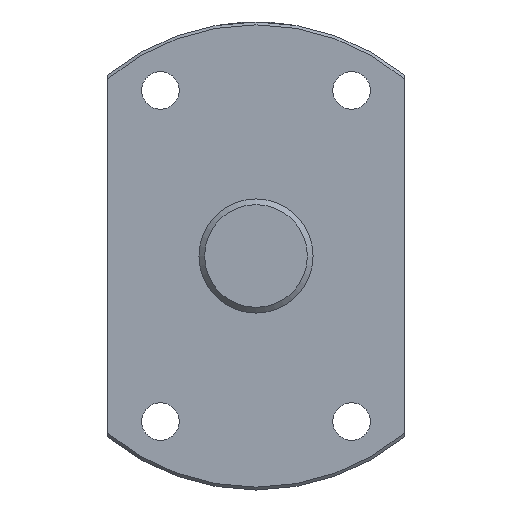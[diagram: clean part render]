
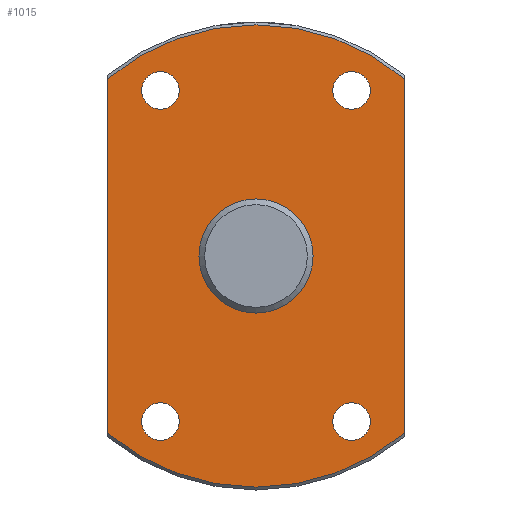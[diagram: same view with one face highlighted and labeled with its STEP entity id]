
A CAD part, left-side view. The second image highlights one B-rep face of the part: STEP entity #1015.
In plain terms, the highlighted planar face has unit normal (-1, 0, 0).
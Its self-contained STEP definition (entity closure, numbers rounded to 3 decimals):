
#315=CARTESIAN_POINT('',(274.556,-26.,31.052));
#316=VERTEX_POINT('',#315);
#341=CARTESIAN_POINT('',(274.556,26.,31.052));
#342=VERTEX_POINT('',#341);
#356=CARTESIAN_POINT('',(274.556,0.0,0.0));
#357=DIRECTION('',(1.0,0.0,0.0));
#358=DIRECTION('',(0.0,1.0,0.0));
#359=AXIS2_PLACEMENT_3D('',#356,#357,#358);
#360=CIRCLE('',#359,40.5);
#361=EDGE_CURVE('',#342,#316,#360,.T.);
#478=CARTESIAN_POINT('',(274.556,-26.,-31.052));
#479=VERTEX_POINT('',#478);
#480=CARTESIAN_POINT('',(274.556,-26.,31.052));
#481=DIRECTION('',(0.0,0.0,-1.0));
#482=VECTOR('',#481,62.105);
#483=LINE('',#480,#482);
#484=EDGE_CURVE('',#316,#479,#483,.T.);
#560=CARTESIAN_POINT('',(274.556,26.,-31.052));
#561=VERTEX_POINT('',#560);
#585=CARTESIAN_POINT('',(274.556,0.0,0.0));
#586=DIRECTION('',(1.0,0.0,0.0));
#587=DIRECTION('',(0.0,1.0,0.0));
#588=AXIS2_PLACEMENT_3D('',#585,#586,#587);
#589=CIRCLE('',#588,40.5);
#590=EDGE_CURVE('',#479,#561,#589,.T.);
#671=CARTESIAN_POINT('',(274.556,26.,-31.052));
#672=DIRECTION('',(0.0,0.0,1.0));
#673=VECTOR('',#672,62.105);
#674=LINE('',#671,#673);
#675=EDGE_CURVE('',#561,#342,#674,.T.);
#897=CARTESIAN_POINT('',(274.556,10.0,0.));
#898=VERTEX_POINT('',#897);
#899=CARTESIAN_POINT('',(274.556,0.0,0.0));
#900=DIRECTION('',(1.0,0.0,0.0));
#901=DIRECTION('',(0.0,-1.0,0.0));
#902=AXIS2_PLACEMENT_3D('',#899,#900,#901);
#903=CIRCLE('',#902,10.0);
#904=EDGE_CURVE('',#898,#898,#903,.T.);
#917=CARTESIAN_POINT('',(274.556,20.05,-29.012));
#918=VERTEX_POINT('',#917);
#919=CARTESIAN_POINT('',(274.556,16.75,-29.012));
#920=DIRECTION('',(1.0,0.0,0.0));
#921=DIRECTION('',(0.0,1.0,0.0));
#922=AXIS2_PLACEMENT_3D('',#919,#920,#921);
#923=CIRCLE('',#922,3.3);
#924=EDGE_CURVE('',#918,#918,#923,.T.);
#937=CARTESIAN_POINT('',(274.556,-13.45,29.012));
#938=VERTEX_POINT('',#937);
#939=CARTESIAN_POINT('',(274.556,-16.75,29.012));
#940=DIRECTION('',(1.0,0.0,0.0));
#941=DIRECTION('',(0.0,1.0,0.0));
#942=AXIS2_PLACEMENT_3D('',#939,#940,#941);
#943=CIRCLE('',#942,3.3);
#944=EDGE_CURVE('',#938,#938,#943,.T.);
#957=CARTESIAN_POINT('',(274.556,20.05,29.012));
#958=VERTEX_POINT('',#957);
#959=CARTESIAN_POINT('',(274.556,16.75,29.012));
#960=DIRECTION('',(1.0,0.0,0.0));
#961=DIRECTION('',(0.0,1.0,0.0));
#962=AXIS2_PLACEMENT_3D('',#959,#960,#961);
#963=CIRCLE('',#962,3.3);
#964=EDGE_CURVE('',#958,#958,#963,.T.);
#977=CARTESIAN_POINT('',(274.556,-13.45,-29.012));
#978=VERTEX_POINT('',#977);
#979=CARTESIAN_POINT('',(274.556,-16.75,-29.012));
#980=DIRECTION('',(1.0,0.0,0.0));
#981=DIRECTION('',(0.0,1.0,0.0));
#982=AXIS2_PLACEMENT_3D('',#979,#980,#981);
#983=CIRCLE('',#982,3.3);
#984=EDGE_CURVE('',#978,#978,#983,.T.);
#989=CARTESIAN_POINT('',(274.556,0.0,0.0));
#990=DIRECTION('',(-1.0,0.0,0.0));
#991=DIRECTION('',(0.0,0.0,1.0));
#992=AXIS2_PLACEMENT_3D('',#989,#990,#991);
#993=PLANE('',#992);
#994=ORIENTED_EDGE('',*,*,#361,.F.);
#995=ORIENTED_EDGE('',*,*,#675,.F.);
#996=ORIENTED_EDGE('',*,*,#590,.F.);
#997=ORIENTED_EDGE('',*,*,#484,.F.);
#998=EDGE_LOOP('',(#994,#995,#996,#997));
#999=FACE_OUTER_BOUND('',#998,.T.);
#1000=ORIENTED_EDGE('',*,*,#904,.T.);
#1001=EDGE_LOOP('',(#1000));
#1002=FACE_BOUND('',#1001,.T.);
#1003=ORIENTED_EDGE('',*,*,#924,.T.);
#1004=EDGE_LOOP('',(#1003));
#1005=FACE_BOUND('',#1004,.T.);
#1006=ORIENTED_EDGE('',*,*,#944,.T.);
#1007=EDGE_LOOP('',(#1006));
#1008=FACE_BOUND('',#1007,.T.);
#1009=ORIENTED_EDGE('',*,*,#964,.T.);
#1010=EDGE_LOOP('',(#1009));
#1011=FACE_BOUND('',#1010,.T.);
#1012=ORIENTED_EDGE('',*,*,#984,.T.);
#1013=EDGE_LOOP('',(#1012));
#1014=FACE_BOUND('',#1013,.T.);
#1015=ADVANCED_FACE('',(#999,#1002,#1005,#1008,#1011,#1014),#993,.T.);
